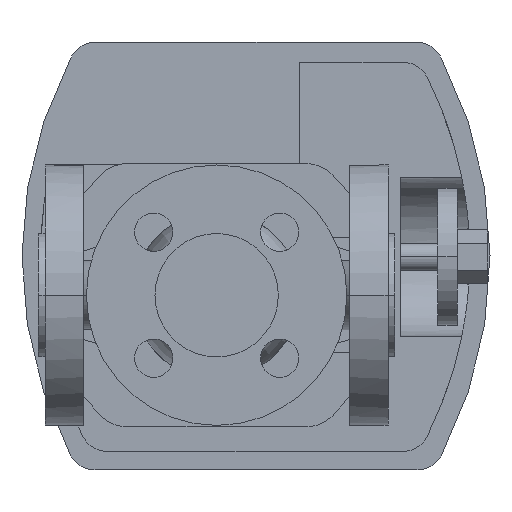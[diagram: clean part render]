
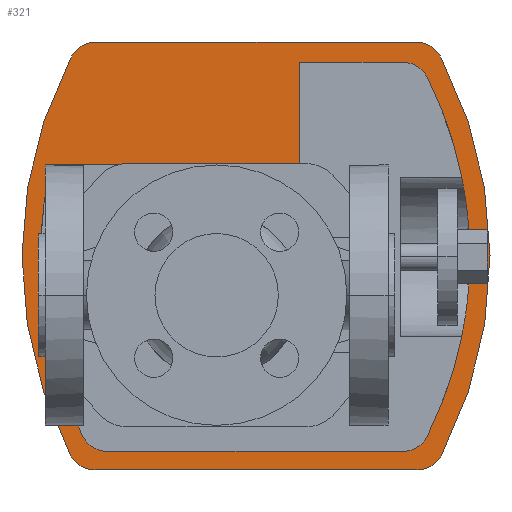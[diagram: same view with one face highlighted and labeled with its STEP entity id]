
A CAD part, front view. The second image highlights one B-rep face of the part: STEP entity #321.
In plain terms, the highlighted planar face has unit normal (0, -1, 0).
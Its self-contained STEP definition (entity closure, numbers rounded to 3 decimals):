
#321 = ADVANCED_FACE( '', ( #818, #819 ), #820, .F. );
#818 = FACE_OUTER_BOUND( '', #1370, .T. );
#819 = FACE_BOUND( '', #1371, .T. );
#820 = PLANE( '', #1372 );
#1370 = EDGE_LOOP( '', ( #3066, #3067, #3068, #3069, #3070, #3071, #3072, #3073 ) );
#1371 = EDGE_LOOP( '', ( #3074, #3075, #3076, #3077, #3078, #3079, #3080, #3081, #3082 ) );
#1372 = AXIS2_PLACEMENT_3D( '', #3083, #3084, #3085 );
#3066 = ORIENTED_EDGE( '', *, *, #4022, .F. );
#3067 = ORIENTED_EDGE( '', *, *, #4023, .F. );
#3068 = ORIENTED_EDGE( '', *, *, #4024, .F. );
#3069 = ORIENTED_EDGE( '', *, *, #4025, .F. );
#3070 = ORIENTED_EDGE( '', *, *, #4026, .F. );
#3071 = ORIENTED_EDGE( '', *, *, #4027, .F. );
#3072 = ORIENTED_EDGE( '', *, *, #4028, .F. );
#3073 = ORIENTED_EDGE( '', *, *, #4029, .F. );
#3074 = ORIENTED_EDGE( '', *, *, #4030, .T. );
#3075 = ORIENTED_EDGE( '', *, *, #4031, .T. );
#3076 = ORIENTED_EDGE( '', *, *, #4032, .F. );
#3077 = ORIENTED_EDGE( '', *, *, #4033, .F. );
#3078 = ORIENTED_EDGE( '', *, *, #4034, .F. );
#3079 = ORIENTED_EDGE( '', *, *, #4035, .F. );
#3080 = ORIENTED_EDGE( '', *, *, #4036, .F. );
#3081 = ORIENTED_EDGE( '', *, *, #4037, .F. );
#3082 = ORIENTED_EDGE( '', *, *, #4038, .F. );
#3083 = CARTESIAN_POINT( '', ( 65., 370.5, 0. ) );
#3084 = DIRECTION( '', ( 0., 1., 0. ) );
#3085 = DIRECTION( '', ( 0., 0., 1. ) );
#4022 = EDGE_CURVE( '', #5003, #5004, #5005, .T. );
#4023 = EDGE_CURVE( '', #5006, #5003, #5007, .T. );
#4024 = EDGE_CURVE( '', #5008, #5006, #5009, .T. );
#4025 = EDGE_CURVE( '', #5010, #5008, #5011, .T. );
#4026 = EDGE_CURVE( '', #5012, #5010, #5013, .T. );
#4027 = EDGE_CURVE( '', #5014, #5012, #5015, .T. );
#4028 = EDGE_CURVE( '', #5016, #5014, #5017, .T. );
#4029 = EDGE_CURVE( '', #5004, #5016, #5018, .T. );
#4030 = EDGE_CURVE( '', #5019, #5020, #5021, .T. );
#4031 = EDGE_CURVE( '', #5020, #5022, #5023, .T. );
#4032 = EDGE_CURVE( '', #5024, #5022, #5025, .T. );
#4033 = EDGE_CURVE( '', #5026, #5024, #5027, .T. );
#4034 = EDGE_CURVE( '', #5028, #5026, #5029, .T. );
#4035 = EDGE_CURVE( '', #5030, #5028, #5031, .T. );
#4036 = EDGE_CURVE( '', #5032, #5030, #5033, .T. );
#4037 = EDGE_CURVE( '', #5034, #5032, #5035, .T. );
#4038 = EDGE_CURVE( '', #5019, #5034, #5036, .T. );
#5003 = VERTEX_POINT( '', #6606 );
#5004 = VERTEX_POINT( '', #6607 );
#5005 = CIRCLE( '', #6608, 157. );
#5006 = VERTEX_POINT( '', #6609 );
#5007 = CIRCLE( '', #6610, 10.2 );
#5008 = VERTEX_POINT( '', #6611 );
#5009 = LINE( '', #6612, #6613 );
#5010 = VERTEX_POINT( '', #6614 );
#5011 = CIRCLE( '', #6615, 10.2 );
#5012 = VERTEX_POINT( '', #6616 );
#5013 = CIRCLE( '', #6617, 157. );
#5014 = VERTEX_POINT( '', #6618 );
#5015 = CIRCLE( '', #6619, 10.2 );
#5016 = VERTEX_POINT( '', #6620 );
#5017 = LINE( '', #6621, #6622 );
#5018 = CIRCLE( '', #6623, 10.2 );
#5019 = VERTEX_POINT( '', #6624 );
#5020 = VERTEX_POINT( '', #6625 );
#5021 = LINE( '', #6626, #6627 );
#5022 = VERTEX_POINT( '', #6628 );
#5023 = LINE( '', #6629, #6630 );
#5024 = VERTEX_POINT( '', #6631 );
#5025 = LINE( '', #6632, #6633 );
#5026 = VERTEX_POINT( '', #6634 );
#5027 = CIRCLE( '', #6635, 10.2 );
#5028 = VERTEX_POINT( '', #6636 );
#5029 = CIRCLE( '', #6637, 146. );
#5030 = VERTEX_POINT( '', #6638 );
#5031 = CIRCLE( '', #6639, 10.2 );
#5032 = VERTEX_POINT( '', #6640 );
#5033 = LINE( '', #6641, #6642 );
#5034 = VERTEX_POINT( '', #6643 );
#5035 = CIRCLE( '', #6644, 10.2 );
#5036 = CIRCLE( '', #6645, 146. );
#6606 = CARTESIAN_POINT( '', ( 11.581, 370.5, -58.19 ) );
#6607 = CARTESIAN_POINT( '', ( 11.915, 370.5, 86.832 ) );
#6608 = AXIS2_PLACEMENT_3D( '', #7954, #7955, #7956 );
#6609 = CARTESIAN_POINT( '', ( 20.639, 370.5, -63.7 ) );
#6610 = AXIS2_PLACEMENT_3D( '', #7957, #7958, #7959 );
#6611 = CARTESIAN_POINT( '', ( 138.061, 370.5, -63.7 ) );
#6612 = CARTESIAN_POINT( '', ( 138.061, 370.5, -63.7 ) );
#6613 = VECTOR( '', #7960, 1. );
#6614 = CARTESIAN_POINT( '', ( 147.119, 370.5, -58.19 ) );
#6615 = AXIS2_PLACEMENT_3D( '', #7961, #7962, #7963 );
#6616 = CARTESIAN_POINT( '', ( 146.785, 370.5, 86.832 ) );
#6617 = AXIS2_PLACEMENT_3D( '', #7964, #7965, #7966 );
#6618 = CARTESIAN_POINT( '', ( 137.749, 370.5, 92.3 ) );
#6619 = AXIS2_PLACEMENT_3D( '', #7967, #7968, #7969 );
#6620 = CARTESIAN_POINT( '', ( 20.951, 370.5, 92.3 ) );
#6621 = CARTESIAN_POINT( '', ( 20.951, 370.5, 92.3 ) );
#6622 = VECTOR( '', #7970, 1. );
#6623 = AXIS2_PLACEMENT_3D( '', #7971, #7972, #7973 );
#6624 = CARTESIAN_POINT( '', ( 4.619, 370.5, 47.6 ) );
#6625 = CARTESIAN_POINT( '', ( 95.2, 370.5, 47.6 ) );
#6626 = CARTESIAN_POINT( '', ( 32.35, 370.5, 47.6 ) );
#6627 = VECTOR( '', #7974, 1. );
#6628 = CARTESIAN_POINT( '', ( 95.2, 370.5, 85. ) );
#6629 = CARTESIAN_POINT( '', ( 95.2, 370.5, 23.8 ) );
#6630 = VECTOR( '', #7975, 1. );
#6631 = CARTESIAN_POINT( '', ( 132.729, 370.5, 85. ) );
#6632 = CARTESIAN_POINT( '', ( 25.271, 370.5, 85. ) );
#6633 = VECTOR( '', #7976, 1. );
#6634 = CARTESIAN_POINT( '', ( 141.85, 370.5, 79.367 ) );
#6635 = AXIS2_PLACEMENT_3D( '', #7977, #7978, #7979 );
#6636 = CARTESIAN_POINT( '', ( 141.85, 370.5, -51.367 ) );
#6637 = AXIS2_PLACEMENT_3D( '', #7980, #7981, #7982 );
#6638 = CARTESIAN_POINT( '', ( 132.729, 370.5, -57. ) );
#6639 = AXIS2_PLACEMENT_3D( '', #7983, #7984, #7985 );
#6640 = CARTESIAN_POINT( '', ( 25.271, 370.5, -57. ) );
#6641 = CARTESIAN_POINT( '', ( 132.729, 370.5, -57. ) );
#6642 = VECTOR( '', #7986, 1. );
#6643 = CARTESIAN_POINT( '', ( 16.15, 370.5, -51.367 ) );
#6644 = AXIS2_PLACEMENT_3D( '', #7987, #7988, #7989 );
#6645 = AXIS2_PLACEMENT_3D( '', #7990, #7991, #7992 );
#7954 = CARTESIAN_POINT( '', ( 151., 370.5, 14. ) );
#7955 = DIRECTION( '', ( 0., 1., 0. ) );
#7956 = DIRECTION( '', ( -0.888, 0., -0.46 ) );
#7957 = CARTESIAN_POINT( '', ( 20.639, 370.5, -53.5 ) );
#7958 = DIRECTION( '', ( 0., 1., 0. ) );
#7959 = DIRECTION( '', ( 0., 0., -1. ) );
#7960 = DIRECTION( '', ( -1., 0., 0. ) );
#7961 = CARTESIAN_POINT( '', ( 138.061, 370.5, -53.5 ) );
#7962 = DIRECTION( '', ( 0., 1., 0. ) );
#7963 = DIRECTION( '', ( 0.888, 0., -0.46 ) );
#7964 = CARTESIAN_POINT( '', ( 7.7, 370.5, 14. ) );
#7965 = DIRECTION( '', ( 0., 1., 0. ) );
#7966 = DIRECTION( '', ( 0.886, 0., 0.464 ) );
#7967 = CARTESIAN_POINT( '', ( 137.749, 370.5, 82.1 ) );
#7968 = DIRECTION( '', ( 0., 1., 0. ) );
#7969 = DIRECTION( '', ( 0., 0., 1. ) );
#7970 = DIRECTION( '', ( 1., 0., 0. ) );
#7971 = CARTESIAN_POINT( '', ( 20.951, 370.5, 82.1 ) );
#7972 = DIRECTION( '', ( 0., 1., 0. ) );
#7973 = DIRECTION( '', ( -0.886, 0., 0.464 ) );
#7974 = DIRECTION( '', ( 1., 0., 0. ) );
#7975 = DIRECTION( '', ( 0., 0., 1. ) );
#7976 = DIRECTION( '', ( -1., 0., 0. ) );
#7977 = CARTESIAN_POINT( '', ( 132.729, 370.5, 74.8 ) );
#7978 = DIRECTION( '', ( 0., -1., 0. ) );
#7979 = DIRECTION( '', ( 0., 0., 1. ) );
#7980 = CARTESIAN_POINT( '', ( 11.3, 370.5, 14. ) );
#7981 = DIRECTION( '', ( 0., -1., 0. ) );
#7982 = DIRECTION( '', ( 0.894, 0., 0.448 ) );
#7983 = CARTESIAN_POINT( '', ( 132.729, 370.5, -46.8 ) );
#7984 = DIRECTION( '', ( 0., -1., 0. ) );
#7985 = DIRECTION( '', ( 0.894, 0., -0.448 ) );
#7986 = DIRECTION( '', ( 1., 0., 0. ) );
#7987 = CARTESIAN_POINT( '', ( 25.271, 370.5, -46.8 ) );
#7988 = DIRECTION( '', ( 0., -1., 0. ) );
#7989 = DIRECTION( '', ( 0., 0., -1. ) );
#7990 = CARTESIAN_POINT( '', ( 146.7, 370.5, 14. ) );
#7991 = DIRECTION( '', ( 0., -1., 0. ) );
#7992 = DIRECTION( '', ( -0.894, 0., -0.448 ) );
